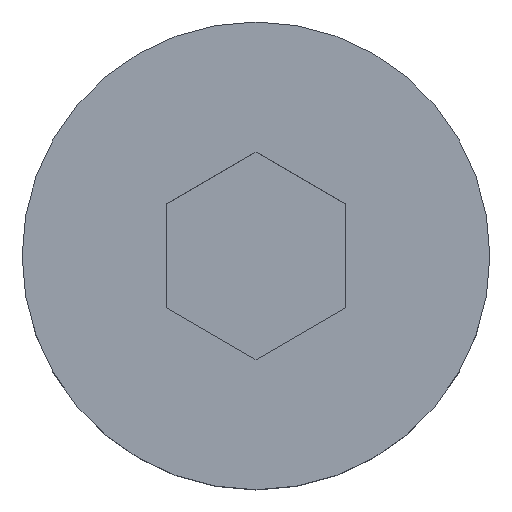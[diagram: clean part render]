
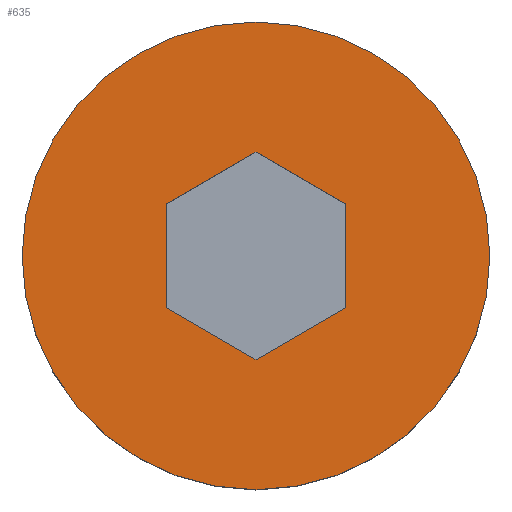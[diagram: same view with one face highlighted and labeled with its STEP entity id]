
A CAD part, top view. The second image highlights one B-rep face of the part: STEP entity #635.
In plain terms, the highlighted planar face has unit normal (0, 0, 1).
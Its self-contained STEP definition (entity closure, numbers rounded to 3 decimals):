
#4 = EDGE_LOOP ( 'NONE', ( #1104, #1088, #1133, #330, #73, #732 ) ) ;
#22 = EDGE_CURVE ( 'NONE', #350, #263, #810, .T. ) ;
#48 = DIRECTION ( 'NONE',  ( 0.866, 0.5, 0. ) ) ;
#55 = LINE ( 'NONE', #546, #587 ) ;
#73 = ORIENTED_EDGE ( 'NONE', *, *, #22, .F. ) ;
#76 = VERTEX_POINT ( 'NONE', #1136 ) ;
#77 = VERTEX_POINT ( 'NONE', #881 ) ;
#99 = VECTOR ( 'NONE', #679, 1000. ) ;
#100 = VECTOR ( 'NONE', #593, 1000. ) ;
#126 = LINE ( 'NONE', #729, #99 ) ;
#134 = VERTEX_POINT ( 'NONE', #967 ) ;
#141 = VERTEX_POINT ( 'NONE', #876 ) ;
#156 = EDGE_CURVE ( 'NONE', #813, #925, #356, .T. ) ;
#183 = LINE ( 'NONE', #348, #1048 ) ;
#237 = DIRECTION ( 'NONE',  ( -1., 0., 0. ) ) ;
#240 = DIRECTION ( 'NONE',  ( 0.866, -0.5, 0. ) ) ;
#245 = DIRECTION ( 'NONE',  ( 0., 0., -1. ) ) ;
#255 = CARTESIAN_POINT ( 'NONE',  ( 13., 0., 8. ) ) ;
#263 = VERTEX_POINT ( 'NONE', #331 ) ;
#269 = DIRECTION ( 'NONE',  ( 0., 0., 1. ) ) ;
#288 = AXIS2_PLACEMENT_3D ( 'NONE', #930, #269, #531 ) ;
#291 = DIRECTION ( 'NONE',  ( 1., 0., 0. ) ) ;
#293 = DIRECTION ( 'NONE',  ( 0., 0., 1. ) ) ;
#297 = CARTESIAN_POINT ( 'NONE',  ( 0., 0., 8. ) ) ;
#321 = EDGE_CURVE ( 'NONE', #263, #813, #417, .T. ) ;
#330 = ORIENTED_EDGE ( 'NONE', *, *, #321, .F. ) ;
#331 = CARTESIAN_POINT ( 'NONE',  ( 0., -5.774, 8. ) ) ;
#348 = CARTESIAN_POINT ( 'NONE',  ( 12.25, -1.299, 8. ) ) ;
#350 = VERTEX_POINT ( 'NONE', #1078 ) ;
#356 = LINE ( 'NONE', #598, #100 ) ;
#376 = VECTOR ( 'NONE', #48, 1000. ) ;
#382 = PLANE ( 'NONE',  #626 ) ;
#385 = DIRECTION ( 'NONE',  ( -0.866, 0.5, 0. ) ) ;
#417 = LINE ( 'NONE', #1123, #376 ) ;
#487 = CIRCLE ( 'NONE', #288, 13. ) ;
#502 = FACE_OUTER_BOUND ( 'NONE', #1190, .T. ) ;
#522 = FACE_BOUND ( 'NONE', #4, .T. ) ;
#531 = DIRECTION ( 'NONE',  ( 1., 0., 0. ) ) ;
#539 = CIRCLE ( 'NONE', #696, 13. ) ;
#546 = CARTESIAN_POINT ( 'NONE',  ( -5., 0., 8. ) ) ;
#568 = EDGE_CURVE ( 'NONE', #77, #350, #55, .T. ) ;
#587 = VECTOR ( 'NONE', #660, 1000. ) ;
#593 = DIRECTION ( 'NONE',  ( 0., 1., 0. ) ) ;
#594 = CARTESIAN_POINT ( 'NONE',  ( 7.25, -9.959, 8. ) ) ;
#598 = CARTESIAN_POINT ( 'NONE',  ( 5., 0., 8. ) ) ;
#615 = EDGE_CURVE ( 'NONE', #76, #141, #539, .T. ) ;
#626 = AXIS2_PLACEMENT_3D ( 'NONE', #255, #245, #237 ) ;
#635 = ADVANCED_FACE ( 'NONE', ( #502, #522 ), #382, .F. ) ;
#660 = DIRECTION ( 'NONE',  ( 0., -1., 0. ) ) ;
#679 = DIRECTION ( 'NONE',  ( -0.866, -0.5, 0. ) ) ;
#696 = AXIS2_PLACEMENT_3D ( 'NONE', #297, #293, #291 ) ;
#729 = CARTESIAN_POINT ( 'NONE',  ( 7.25, 9.959, 8. ) ) ;
#732 = ORIENTED_EDGE ( 'NONE', *, *, #568, .F. ) ;
#734 = VECTOR ( 'NONE', #240, 1000. ) ;
#810 = LINE ( 'NONE', #594, #734 ) ;
#813 = VERTEX_POINT ( 'NONE', #910 ) ;
#835 = CARTESIAN_POINT ( 'NONE',  ( 5., 2.887, 8. ) ) ;
#876 = CARTESIAN_POINT ( 'NONE',  ( 13., 0., 8. ) ) ;
#881 = CARTESIAN_POINT ( 'NONE',  ( -5., 2.887, 8. ) ) ;
#910 = CARTESIAN_POINT ( 'NONE',  ( 5., -2.887, 8. ) ) ;
#921 = EDGE_CURVE ( 'NONE', #141, #76, #487, .T. ) ;
#925 = VERTEX_POINT ( 'NONE', #835 ) ;
#930 = CARTESIAN_POINT ( 'NONE',  ( 0., 0., 8. ) ) ;
#967 = CARTESIAN_POINT ( 'NONE',  ( 0., 5.774, 8. ) ) ;
#1048 = VECTOR ( 'NONE', #385, 1000. ) ;
#1078 = CARTESIAN_POINT ( 'NONE',  ( -5., -2.887, 8. ) ) ;
#1088 = ORIENTED_EDGE ( 'NONE', *, *, #1121, .F. ) ;
#1104 = ORIENTED_EDGE ( 'NONE', *, *, #1158, .F. ) ;
#1112 = ORIENTED_EDGE ( 'NONE', *, *, #615, .T. ) ;
#1121 = EDGE_CURVE ( 'NONE', #925, #134, #183, .T. ) ;
#1123 = CARTESIAN_POINT ( 'NONE',  ( 12.25, 1.299, 8. ) ) ;
#1133 = ORIENTED_EDGE ( 'NONE', *, *, #156, .F. ) ;
#1136 = CARTESIAN_POINT ( 'NONE',  ( -13., 0., 8. ) ) ;
#1158 = EDGE_CURVE ( 'NONE', #134, #77, #126, .T. ) ;
#1171 = ORIENTED_EDGE ( 'NONE', *, *, #921, .T. ) ;
#1190 = EDGE_LOOP ( 'NONE', ( #1171, #1112 ) ) ;
